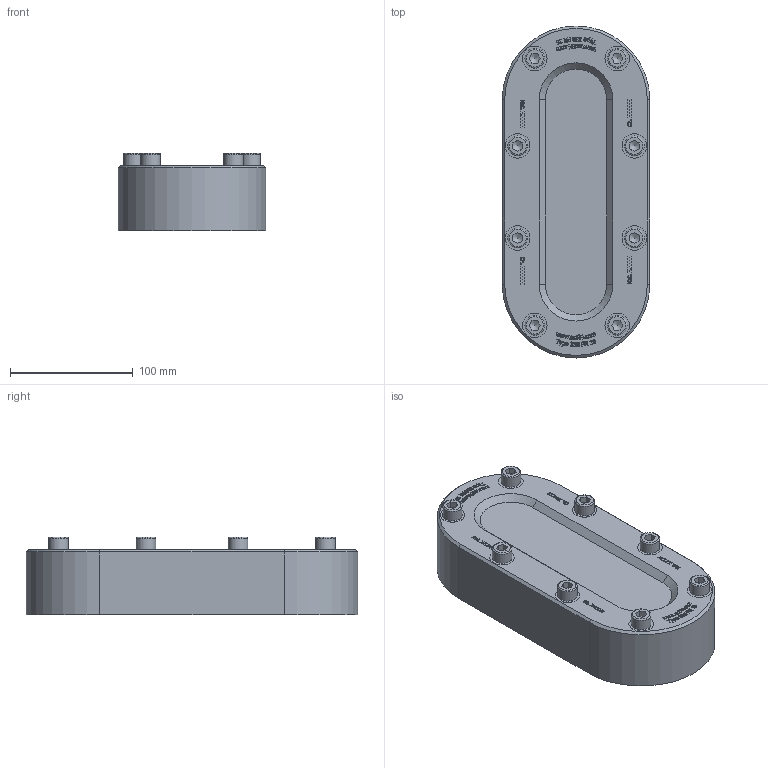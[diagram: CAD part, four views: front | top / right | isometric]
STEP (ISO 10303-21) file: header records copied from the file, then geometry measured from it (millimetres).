
FILE_DESCRIPTION(/* description */ (''),/* implementation_level */ '2;1');
FILE_NAME(/* name */ 'W:\Konstruktion_ACI\338\_STEP\338-270.stp',/* time_stamp */ '2022-03-11T14:29:00+01:00',/* author */ ('koslowksi'),/* organization */ (''),/* preprocessor_version */ 'ST-DEVELOPER v16.1',/* originating_system */ 'Autodesk Inventor 2016',/* authorisation */ '');
FILE_SCHEMA (('AUTOMOTIVE_DESIGN { 1 0 10303 214 3 1 1 }'));
Length unit declared in the file: millimetre
Products named in the file (1): 338-270
Bounding box: 120 x 270 x 62.9 mm (x, y, z)
Volume: 1313021.3 mm3; surface area: 110580.7 mm2
Topology: 1 solids, 1 shells, 1388 faces, 3773 edges, 2509 vertices
Faces by surface type: plane 910, bspline 438, cylinder 20, cone 12, torus 8
Full cylindrical faces by diameter (mm): 16 x8, 20 x8
Entity records: 46620 total; most frequent: CARTESIAN_POINT 13413, ORIENTED_EDGE 7466, DIRECTION 4765, EDGE_CURVE 3733, LINE 2755, VECTOR 2755, VERTEX_POINT 2501, EDGE_LOOP 1542
